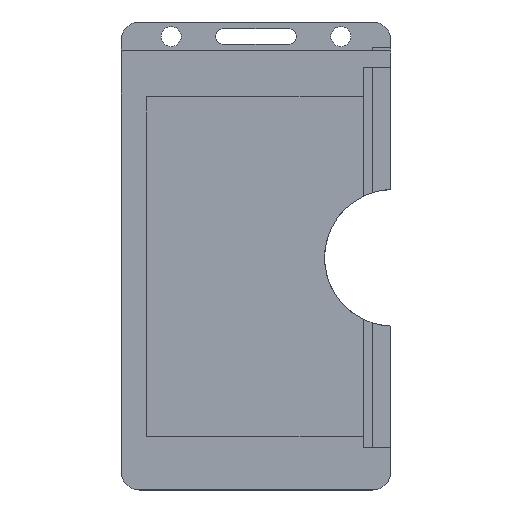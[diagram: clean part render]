
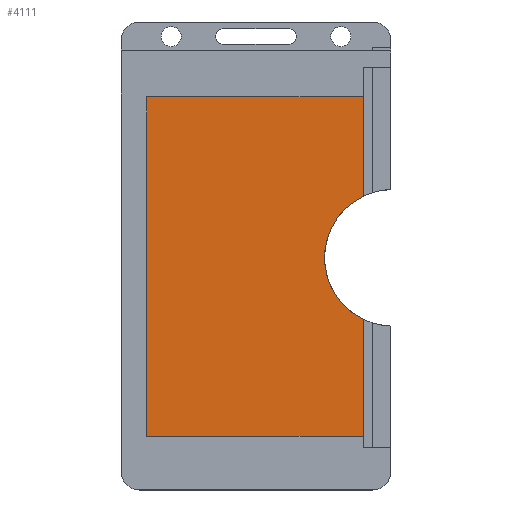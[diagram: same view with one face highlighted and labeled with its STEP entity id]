
A CAD part, top view. The second image highlights one B-rep face of the part: STEP entity #4111.
In plain terms, the highlighted planar face has unit normal (0, 0, 1).
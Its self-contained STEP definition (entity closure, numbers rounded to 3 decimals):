
#1063 = PLANE('',#1064);
#1064 = AXIS2_PLACEMENT_3D('',#1065,#1066,#1067);
#1065 = CARTESIAN_POINT('',(24.,6.,1.6));
#1066 = DIRECTION('',(1.,0.,-0.));
#1067 = DIRECTION('',(0.,0.,1.));
#2562 = VERTEX_POINT('',#2563);
#2563 = CARTESIAN_POINT('',(24.,95.8,5.8));
#2583 = EDGE_CURVE('',#2584,#2562,#2586,.T.);
#2584 = VERTEX_POINT('',#2585);
#2585 = CARTESIAN_POINT('',(24.,65.779,5.8));
#2586 = SURFACE_CURVE('',#2587,(#2591,#2597),.PCURVE_S1.);
#2587 = LINE('',#2588,#2589);
#2588 = CARTESIAN_POINT('',(24.,29.2,5.8));
#2589 = VECTOR('',#2590,1.);
#2590 = DIRECTION('',(-0.,1.,0.));
#2591 = PCURVE('',#1063,#2592);
#2592 = DEFINITIONAL_REPRESENTATION('',(#2593),#2596);
#2593 = B_SPLINE_CURVE_WITH_KNOTS('',1,(#2594,#2595),.UNSPECIFIED.,.F.,
  .F.,(2,2),(-23.2,69.1),.PIECEWISE_BEZIER_KNOTS.);
#2594 = CARTESIAN_POINT('',(4.2,0.));
#2595 = CARTESIAN_POINT('',(4.2,-92.3));
#2596 = ( GEOMETRIC_REPRESENTATION_CONTEXT(2) 
PARAMETRIC_REPRESENTATION_CONTEXT() REPRESENTATION_CONTEXT('2D SPACE',''
  ) );
#2597 = PCURVE('',#2598,#2603);
#2598 = PLANE('',#2599);
#2599 = AXIS2_PLACEMENT_3D('',#2600,#2601,#2602);
#2600 = CARTESIAN_POINT('',(0.,52.4,5.8));
#2601 = DIRECTION('',(0.,0.,1.));
#2602 = DIRECTION('',(1.,0.,-0.));
#2603 = DEFINITIONAL_REPRESENTATION('',(#2604),#2607);
#2604 = B_SPLINE_CURVE_WITH_KNOTS('',1,(#2605,#2606),.UNSPECIFIED.,.F.,
  .F.,(2,2),(-23.2,69.1),.PIECEWISE_BEZIER_KNOTS.);
#2605 = CARTESIAN_POINT('',(24.,-46.4));
#2606 = CARTESIAN_POINT('',(24.,45.9));
#2607 = ( GEOMETRIC_REPRESENTATION_CONTEXT(2) 
PARAMETRIC_REPRESENTATION_CONTEXT() REPRESENTATION_CONTEXT('2D SPACE',''
  ) );
#2622 = CYLINDRICAL_SURFACE('',#2623,15.3);
#2623 = AXIS2_PLACEMENT_3D('',#2624,#2625,#2626);
#2624 = CARTESIAN_POINT('',(30.65,52.,4.4));
#2625 = DIRECTION('',(0.,0.,1.));
#2626 = DIRECTION('',(1.,0.,-0.));
#2717 = PLANE('',#2718);
#2718 = AXIS2_PLACEMENT_3D('',#2719,#2720,#2721);
#2719 = CARTESIAN_POINT('',(-27.7,95.8,5.8));
#2720 = DIRECTION('',(-0.,1.,0.));
#2721 = DIRECTION('',(0.,0.,1.));
#4028 = PLANE('',#4029);
#4029 = AXIS2_PLACEMENT_3D('',#4030,#4031,#4032);
#4030 = CARTESIAN_POINT('',(24.,6.,1.6));
#4031 = DIRECTION('',(1.,0.,-0.));
#4032 = DIRECTION('',(0.,0.,1.));
#4067 = EDGE_CURVE('',#2584,#4068,#4070,.T.);
#4068 = VERTEX_POINT('',#4069);
#4069 = CARTESIAN_POINT('',(24.,38.221,5.8));
#4070 = SURFACE_CURVE('',#4071,(#4076,#4083),.PCURVE_S1.);
#4071 = CIRCLE('',#4072,15.3);
#4072 = AXIS2_PLACEMENT_3D('',#4073,#4074,#4075);
#4073 = CARTESIAN_POINT('',(30.65,52.,5.8));
#4074 = DIRECTION('',(0.,0.,1.));
#4075 = DIRECTION('',(1.,0.,-0.));
#4076 = PCURVE('',#2622,#4077);
#4077 = DEFINITIONAL_REPRESENTATION('',(#4078),#4082);
#4078 = LINE('',#4079,#4080);
#4079 = CARTESIAN_POINT('',(0.,1.4));
#4080 = VECTOR('',#4081,1.);
#4081 = DIRECTION('',(1.,0.));
#4082 = ( GEOMETRIC_REPRESENTATION_CONTEXT(2) 
PARAMETRIC_REPRESENTATION_CONTEXT() REPRESENTATION_CONTEXT('2D SPACE',''
  ) );
#4083 = PCURVE('',#2598,#4084);
#4084 = DEFINITIONAL_REPRESENTATION('',(#4085),#4089);
#4085 = CIRCLE('',#4086,15.3);
#4086 = AXIS2_PLACEMENT_2D('',#4087,#4088);
#4087 = CARTESIAN_POINT('',(30.65,-0.4));
#4088 = DIRECTION('',(1.,0.));
#4089 = ( GEOMETRIC_REPRESENTATION_CONTEXT(2) 
PARAMETRIC_REPRESENTATION_CONTEXT() REPRESENTATION_CONTEXT('2D SPACE',''
  ) );
#4111 = ADVANCED_FACE('',(#4112),#2598,.T.);
#4112 = FACE_BOUND('',#4113,.T.);
#4113 = EDGE_LOOP('',(#4114,#4143,#4171,#4190,#4191,#4192));
#4114 = ORIENTED_EDGE('',*,*,#4115,.F.);
#4115 = EDGE_CURVE('',#4116,#4118,#4120,.T.);
#4116 = VERTEX_POINT('',#4117);
#4117 = CARTESIAN_POINT('',(-27.7,8.8,5.8));
#4118 = VERTEX_POINT('',#4119);
#4119 = CARTESIAN_POINT('',(-27.7,95.8,5.8));
#4120 = SURFACE_CURVE('',#4121,(#4125,#4132),.PCURVE_S1.);
#4121 = LINE('',#4122,#4123);
#4122 = CARTESIAN_POINT('',(-27.7,29.2,5.8));
#4123 = VECTOR('',#4124,1.);
#4124 = DIRECTION('',(-0.,1.,0.));
#4125 = PCURVE('',#2598,#4126);
#4126 = DEFINITIONAL_REPRESENTATION('',(#4127),#4131);
#4127 = LINE('',#4128,#4129);
#4128 = CARTESIAN_POINT('',(-27.7,-23.2));
#4129 = VECTOR('',#4130,1.);
#4130 = DIRECTION('',(0.,1.));
#4131 = ( GEOMETRIC_REPRESENTATION_CONTEXT(2) 
PARAMETRIC_REPRESENTATION_CONTEXT() REPRESENTATION_CONTEXT('2D SPACE',''
  ) );
#4132 = PCURVE('',#4133,#4138);
#4133 = PLANE('',#4134);
#4134 = AXIS2_PLACEMENT_3D('',#4135,#4136,#4137);
#4135 = CARTESIAN_POINT('',(-27.7,6.,5.7));
#4136 = DIRECTION('',(1.,0.,-0.));
#4137 = DIRECTION('',(0.,0.,1.));
#4138 = DEFINITIONAL_REPRESENTATION('',(#4139),#4142);
#4139 = B_SPLINE_CURVE_WITH_KNOTS('',1,(#4140,#4141),.UNSPECIFIED.,.F.,
  .F.,(2,2),(-23.2,69.1),.PIECEWISE_BEZIER_KNOTS.);
#4140 = CARTESIAN_POINT('',(0.1,0.));
#4141 = CARTESIAN_POINT('',(0.1,-92.3));
#4142 = ( GEOMETRIC_REPRESENTATION_CONTEXT(2) 
PARAMETRIC_REPRESENTATION_CONTEXT() REPRESENTATION_CONTEXT('2D SPACE',''
  ) );
#4143 = ORIENTED_EDGE('',*,*,#4144,.T.);
#4144 = EDGE_CURVE('',#4116,#4145,#4147,.T.);
#4145 = VERTEX_POINT('',#4146);
#4146 = CARTESIAN_POINT('',(24.,8.8,5.8));
#4147 = SURFACE_CURVE('',#4148,(#4152,#4159),.PCURVE_S1.);
#4148 = LINE('',#4149,#4150);
#4149 = CARTESIAN_POINT('',(-27.7,8.8,5.8));
#4150 = VECTOR('',#4151,1.);
#4151 = DIRECTION('',(1.,0.,-0.));
#4152 = PCURVE('',#2598,#4153);
#4153 = DEFINITIONAL_REPRESENTATION('',(#4154),#4158);
#4154 = LINE('',#4155,#4156);
#4155 = CARTESIAN_POINT('',(-27.7,-43.6));
#4156 = VECTOR('',#4157,1.);
#4157 = DIRECTION('',(1.,0.));
#4158 = ( GEOMETRIC_REPRESENTATION_CONTEXT(2) 
PARAMETRIC_REPRESENTATION_CONTEXT() REPRESENTATION_CONTEXT('2D SPACE',''
  ) );
#4159 = PCURVE('',#4160,#4165);
#4160 = PLANE('',#4161);
#4161 = AXIS2_PLACEMENT_3D('',#4162,#4163,#4164);
#4162 = CARTESIAN_POINT('',(-27.7,8.8,5.8));
#4163 = DIRECTION('',(-0.,1.,0.));
#4164 = DIRECTION('',(0.,0.,1.));
#4165 = DEFINITIONAL_REPRESENTATION('',(#4166),#4170);
#4166 = LINE('',#4167,#4168);
#4167 = CARTESIAN_POINT('',(0.,0.));
#4168 = VECTOR('',#4169,1.);
#4169 = DIRECTION('',(0.,1.));
#4170 = ( GEOMETRIC_REPRESENTATION_CONTEXT(2) 
PARAMETRIC_REPRESENTATION_CONTEXT() REPRESENTATION_CONTEXT('2D SPACE',''
  ) );
#4171 = ORIENTED_EDGE('',*,*,#4172,.T.);
#4172 = EDGE_CURVE('',#4145,#4068,#4173,.T.);
#4173 = SURFACE_CURVE('',#4174,(#4178,#4184),.PCURVE_S1.);
#4174 = LINE('',#4175,#4176);
#4175 = CARTESIAN_POINT('',(24.,29.2,5.8));
#4176 = VECTOR('',#4177,1.);
#4177 = DIRECTION('',(-0.,1.,0.));
#4178 = PCURVE('',#2598,#4179);
#4179 = DEFINITIONAL_REPRESENTATION('',(#4180),#4183);
#4180 = B_SPLINE_CURVE_WITH_KNOTS('',1,(#4181,#4182),.UNSPECIFIED.,.F.,
  .F.,(2,2),(-23.2,69.1),.PIECEWISE_BEZIER_KNOTS.);
#4181 = CARTESIAN_POINT('',(24.,-46.4));
#4182 = CARTESIAN_POINT('',(24.,45.9));
#4183 = ( GEOMETRIC_REPRESENTATION_CONTEXT(2) 
PARAMETRIC_REPRESENTATION_CONTEXT() REPRESENTATION_CONTEXT('2D SPACE',''
  ) );
#4184 = PCURVE('',#4028,#4185);
#4185 = DEFINITIONAL_REPRESENTATION('',(#4186),#4189);
#4186 = B_SPLINE_CURVE_WITH_KNOTS('',1,(#4187,#4188),.UNSPECIFIED.,.F.,
  .F.,(2,2),(-23.2,69.1),.PIECEWISE_BEZIER_KNOTS.);
#4187 = CARTESIAN_POINT('',(4.2,0.));
#4188 = CARTESIAN_POINT('',(4.2,-92.3));
#4189 = ( GEOMETRIC_REPRESENTATION_CONTEXT(2) 
PARAMETRIC_REPRESENTATION_CONTEXT() REPRESENTATION_CONTEXT('2D SPACE',''
  ) );
#4190 = ORIENTED_EDGE('',*,*,#4067,.F.);
#4191 = ORIENTED_EDGE('',*,*,#2583,.T.);
#4192 = ORIENTED_EDGE('',*,*,#4193,.F.);
#4193 = EDGE_CURVE('',#4118,#2562,#4194,.T.);
#4194 = SURFACE_CURVE('',#4195,(#4199,#4206),.PCURVE_S1.);
#4195 = LINE('',#4196,#4197);
#4196 = CARTESIAN_POINT('',(-27.7,95.8,5.8));
#4197 = VECTOR('',#4198,1.);
#4198 = DIRECTION('',(1.,0.,-0.));
#4199 = PCURVE('',#2598,#4200);
#4200 = DEFINITIONAL_REPRESENTATION('',(#4201),#4205);
#4201 = LINE('',#4202,#4203);
#4202 = CARTESIAN_POINT('',(-27.7,43.4));
#4203 = VECTOR('',#4204,1.);
#4204 = DIRECTION('',(1.,0.));
#4205 = ( GEOMETRIC_REPRESENTATION_CONTEXT(2) 
PARAMETRIC_REPRESENTATION_CONTEXT() REPRESENTATION_CONTEXT('2D SPACE',''
  ) );
#4206 = PCURVE('',#2717,#4207);
#4207 = DEFINITIONAL_REPRESENTATION('',(#4208),#4212);
#4208 = LINE('',#4209,#4210);
#4209 = CARTESIAN_POINT('',(0.,0.));
#4210 = VECTOR('',#4211,1.);
#4211 = DIRECTION('',(0.,1.));
#4212 = ( GEOMETRIC_REPRESENTATION_CONTEXT(2) 
PARAMETRIC_REPRESENTATION_CONTEXT() REPRESENTATION_CONTEXT('2D SPACE',''
  ) );
